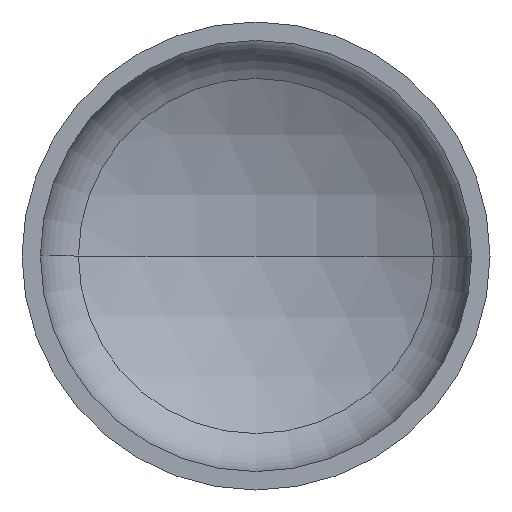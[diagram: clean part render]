
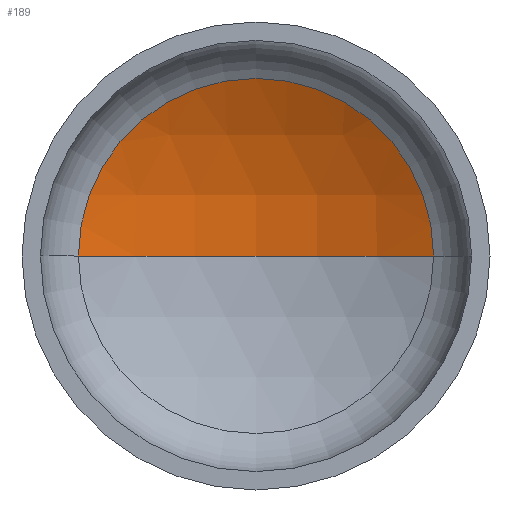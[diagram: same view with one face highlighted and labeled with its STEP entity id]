
A CAD part, front view. The second image highlights one B-rep face of the part: STEP entity #189.
In plain terms, the highlighted spherical face has radius 284 mm.
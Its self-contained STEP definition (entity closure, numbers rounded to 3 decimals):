
#6 = EDGE_LOOP ( 'NONE', ( #167, #29, #129 ) ) ;
#17 = AXIS2_PLACEMENT_3D ( 'NONE', #228, #240, #30 ) ;
#20 = VERTEX_POINT ( 'NONE', #237 ) ;
#29 = ORIENTED_EDGE ( 'NONE', *, *, #149, .T. ) ;
#30 = DIRECTION ( 'NONE',  ( -1., 0., 0. ) ) ;
#39 = VERTEX_POINT ( 'NONE', #275 ) ;
#44 = AXIS2_PLACEMENT_3D ( 'NONE', #203, #204, #250 ) ;
#49 = AXIS2_PLACEMENT_3D ( 'NONE', #123, #184, #188 ) ;
#58 = AXIS2_PLACEMENT_3D ( 'NONE', #292, #242, #379 ) ;
#82 = VERTEX_POINT ( 'NONE', #231 ) ;
#100 = CIRCLE ( 'NONE', #49, 284. ) ;
#123 = CARTESIAN_POINT ( 'NONE',  ( 0., -156.503, 0. ) ) ;
#129 = ORIENTED_EDGE ( 'NONE', *, *, #148, .T. ) ;
#148 = EDGE_CURVE ( 'NONE', #82, #20, #202, .T. ) ;
#149 = EDGE_CURVE ( 'NONE', #39, #82, #100, .T. ) ;
#151 = EDGE_CURVE ( 'NONE', #39, #20, #324, .T. ) ;
#167 = ORIENTED_EDGE ( 'NONE', *, *, #151, .F. ) ;
#184 = DIRECTION ( 'NONE',  ( 0., 0., -1. ) ) ;
#186 = SPHERICAL_SURFACE ( 'NONE', #17, 284. ) ;
#188 = DIRECTION ( 'NONE',  ( -1., 0., 0. ) ) ;
#189 = ADVANCED_FACE ( 'NONE', ( #377 ), #186, .F. ) ;
#202 = CIRCLE ( 'NONE', #58, 134.931 ) ;
#203 = CARTESIAN_POINT ( 'NONE',  ( 0., -156.503, 0. ) ) ;
#204 = DIRECTION ( 'NONE',  ( 0., 0., 1. ) ) ;
#228 = CARTESIAN_POINT ( 'NONE',  ( 0., -156.503, 0. ) ) ;
#231 = CARTESIAN_POINT ( 'NONE',  ( 134.931, 93.396, 0. ) ) ;
#237 = CARTESIAN_POINT ( 'NONE',  ( -134.931, 93.396, 0. ) ) ;
#240 = DIRECTION ( 'NONE',  ( 0., 0., -1. ) ) ;
#242 = DIRECTION ( 'NONE',  ( 0., -1., 0. ) ) ;
#250 = DIRECTION ( 'NONE',  ( 1., 0., 0. ) ) ;
#275 = CARTESIAN_POINT ( 'NONE',  ( 0., 127.497, 0. ) ) ;
#292 = CARTESIAN_POINT ( 'NONE',  ( 0., 93.396, 0. ) ) ;
#324 = CIRCLE ( 'NONE', #44, 284. ) ;
#377 = FACE_OUTER_BOUND ( 'NONE', #6, .T. ) ;
#379 = DIRECTION ( 'NONE',  ( 1., 0., 0. ) ) ;
